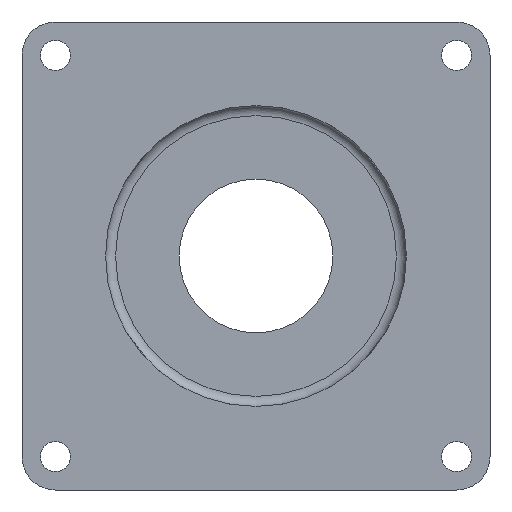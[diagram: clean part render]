
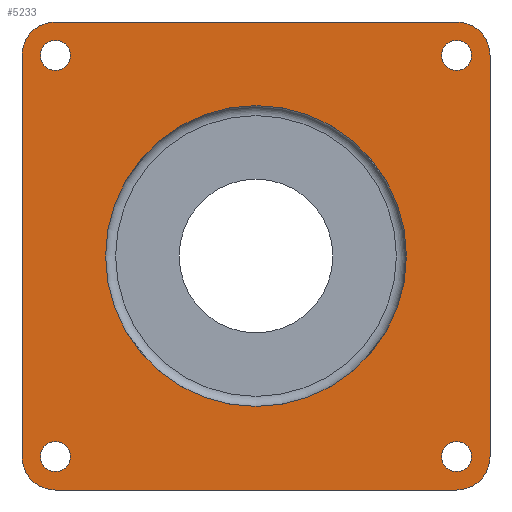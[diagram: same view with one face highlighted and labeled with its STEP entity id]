
A CAD part, front view. The second image highlights one B-rep face of the part: STEP entity #5233.
In plain terms, the highlighted planar face has unit normal (0, -1, 0).
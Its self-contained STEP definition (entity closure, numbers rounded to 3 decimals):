
#631=LINE('',#11466,#961);
#634=LINE('',#11474,#964);
#639=LINE('',#11511,#969);
#640=LINE('',#11514,#970);
#961=VECTOR('',#6822,10.);
#964=VECTOR('',#6831,10.);
#969=VECTOR('',#6880,10.);
#970=VECTOR('',#6883,10.);
#1101=FACE_BOUND('',#1837,.T.);
#1102=FACE_BOUND('',#1838,.T.);
#1103=FACE_BOUND('',#1839,.T.);
#1104=FACE_BOUND('',#1840,.T.);
#1105=FACE_BOUND('',#1841,.T.);
#1218=PLANE('',#5700);
#1493=FACE_OUTER_BOUND('',#1836,.T.);
#1836=EDGE_LOOP('',(#4828,#4829,#4830,#4831,#4832,#4833,#4834,#4835));
#1837=EDGE_LOOP('',(#4836));
#1838=EDGE_LOOP('',(#4837));
#1839=EDGE_LOOP('',(#4838));
#1840=EDGE_LOOP('',(#4839));
#1841=EDGE_LOOP('',(#4840));
#1875=CIRCLE('',#5293,45.);
#2077=CIRCLE('',#5675,10.);
#2078=CIRCLE('',#5678,10.);
#2082=CIRCLE('',#5686,4.5);
#2084=CIRCLE('',#5689,4.5);
#2086=CIRCLE('',#5692,4.5);
#2088=CIRCLE('',#5695,4.5);
#2089=CIRCLE('',#5701,10.);
#2090=CIRCLE('',#5702,10.);
#2110=VERTEX_POINT('',#7044);
#2574=VERTEX_POINT('',#11458);
#2575=VERTEX_POINT('',#11460);
#2576=VERTEX_POINT('',#11464);
#2577=VERTEX_POINT('',#11468);
#2578=VERTEX_POINT('',#11472);
#2580=VERTEX_POINT('',#11482);
#2582=VERTEX_POINT('',#11488);
#2584=VERTEX_POINT('',#11494);
#2586=VERTEX_POINT('',#11500);
#2587=VERTEX_POINT('',#11508);
#2588=VERTEX_POINT('',#11510);
#2589=VERTEX_POINT('',#11512);
#2623=EDGE_CURVE('',#2110,#2110,#1875,.T.);
#3326=EDGE_CURVE('',#2574,#2575,#2077,.T.);
#3329=EDGE_CURVE('',#2576,#2574,#631,.T.);
#3331=EDGE_CURVE('',#2577,#2576,#2078,.T.);
#3333=EDGE_CURVE('',#2578,#2577,#634,.T.);
#3338=EDGE_CURVE('',#2580,#2580,#2082,.T.);
#3341=EDGE_CURVE('',#2582,#2582,#2084,.T.);
#3344=EDGE_CURVE('',#2584,#2584,#2086,.T.);
#3347=EDGE_CURVE('',#2586,#2586,#2088,.T.);
#3348=EDGE_CURVE('',#2587,#2578,#2089,.T.);
#3349=EDGE_CURVE('',#2588,#2587,#639,.T.);
#3350=EDGE_CURVE('',#2589,#2588,#2090,.T.);
#3351=EDGE_CURVE('',#2575,#2589,#640,.T.);
#4828=ORIENTED_EDGE('',*,*,#3331,.F.);
#4829=ORIENTED_EDGE('',*,*,#3333,.F.);
#4830=ORIENTED_EDGE('',*,*,#3348,.F.);
#4831=ORIENTED_EDGE('',*,*,#3349,.F.);
#4832=ORIENTED_EDGE('',*,*,#3350,.F.);
#4833=ORIENTED_EDGE('',*,*,#3351,.F.);
#4834=ORIENTED_EDGE('',*,*,#3326,.F.);
#4835=ORIENTED_EDGE('',*,*,#3329,.F.);
#4836=ORIENTED_EDGE('',*,*,#2623,.T.);
#4837=ORIENTED_EDGE('',*,*,#3338,.T.);
#4838=ORIENTED_EDGE('',*,*,#3341,.T.);
#4839=ORIENTED_EDGE('',*,*,#3344,.T.);
#4840=ORIENTED_EDGE('',*,*,#3347,.T.);
#5233=ADVANCED_FACE('',(#1493,#1101,#1102,#1103,#1104,#1105),#1218,.F.);
#5293=AXIS2_PLACEMENT_3D('',#7046,#5763,#5764);
#5675=AXIS2_PLACEMENT_3D('',#11461,#6816,#6817);
#5678=AXIS2_PLACEMENT_3D('',#11470,#6826,#6827);
#5686=AXIS2_PLACEMENT_3D('',#11484,#6845,#6846);
#5689=AXIS2_PLACEMENT_3D('',#11490,#6852,#6853);
#5692=AXIS2_PLACEMENT_3D('',#11496,#6859,#6860);
#5695=AXIS2_PLACEMENT_3D('',#11502,#6866,#6867);
#5700=AXIS2_PLACEMENT_3D('',#11507,#6876,#6877);
#5701=AXIS2_PLACEMENT_3D('',#11509,#6878,#6879);
#5702=AXIS2_PLACEMENT_3D('',#11513,#6881,#6882);
#5763=DIRECTION('center_axis',(0.,1.,0.));
#5764=DIRECTION('ref_axis',(0.,0.,1.));
#6816=DIRECTION('center_axis',(0.,1.,0.));
#6817=DIRECTION('ref_axis',(0.707,0.,0.707));
#6822=DIRECTION('',(1.,0.,0.));
#6826=DIRECTION('center_axis',(0.,1.,0.));
#6827=DIRECTION('ref_axis',(-0.707,0.,0.707));
#6831=DIRECTION('',(0.,0.,1.));
#6845=DIRECTION('center_axis',(0.,1.,0.));
#6846=DIRECTION('ref_axis',(1.,0.,0.));
#6852=DIRECTION('center_axis',(0.,1.,0.));
#6853=DIRECTION('ref_axis',(1.,0.,0.));
#6859=DIRECTION('center_axis',(0.,1.,0.));
#6860=DIRECTION('ref_axis',(1.,0.,0.));
#6866=DIRECTION('center_axis',(0.,1.,0.));
#6867=DIRECTION('ref_axis',(1.,0.,0.));
#6876=DIRECTION('center_axis',(0.,1.,0.));
#6877=DIRECTION('ref_axis',(0.,0.,1.));
#6878=DIRECTION('center_axis',(0.,1.,0.));
#6879=DIRECTION('ref_axis',(-0.707,0.,-0.707));
#6880=DIRECTION('',(-1.,0.,0.));
#6881=DIRECTION('center_axis',(0.,1.,0.));
#6882=DIRECTION('ref_axis',(0.707,0.,-0.707));
#6883=DIRECTION('',(0.,0.,-1.));
#7044=CARTESIAN_POINT('',(0.,-65.,-45.));
#7046=CARTESIAN_POINT('Origin',(0.,-65.,0.));
#11458=CARTESIAN_POINT('',(60.,-65.,70.));
#11460=CARTESIAN_POINT('',(70.,-65.,60.));
#11461=CARTESIAN_POINT('Origin',(60.,-65.,60.));
#11464=CARTESIAN_POINT('',(-60.,-65.,70.));
#11466=CARTESIAN_POINT('',(-70.,-65.,70.));
#11468=CARTESIAN_POINT('',(-70.,-65.,60.));
#11470=CARTESIAN_POINT('Origin',(-60.,-65.,60.));
#11472=CARTESIAN_POINT('',(-70.,-65.,-60.));
#11474=CARTESIAN_POINT('',(-70.,-65.,-70.));
#11482=CARTESIAN_POINT('',(55.5,-65.,-60.));
#11484=CARTESIAN_POINT('Origin',(60.,-65.,-60.));
#11488=CARTESIAN_POINT('',(-64.5,-65.,60.));
#11490=CARTESIAN_POINT('Origin',(-60.,-65.,60.));
#11494=CARTESIAN_POINT('',(55.5,-65.,60.));
#11496=CARTESIAN_POINT('Origin',(60.,-65.,60.));
#11500=CARTESIAN_POINT('',(-64.5,-65.,-60.));
#11502=CARTESIAN_POINT('Origin',(-60.,-65.,-60.));
#11507=CARTESIAN_POINT('Origin',(0.,-65.,0.));
#11508=CARTESIAN_POINT('',(-60.,-65.,-70.));
#11509=CARTESIAN_POINT('Origin',(-60.,-65.,-60.));
#11510=CARTESIAN_POINT('',(60.,-65.,-70.));
#11511=CARTESIAN_POINT('',(70.,-65.,-70.));
#11512=CARTESIAN_POINT('',(70.,-65.,-60.));
#11513=CARTESIAN_POINT('Origin',(60.,-65.,-60.));
#11514=CARTESIAN_POINT('',(70.,-65.,70.));
